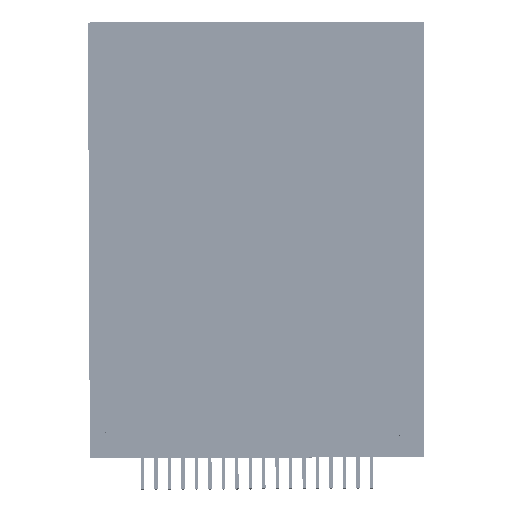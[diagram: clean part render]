
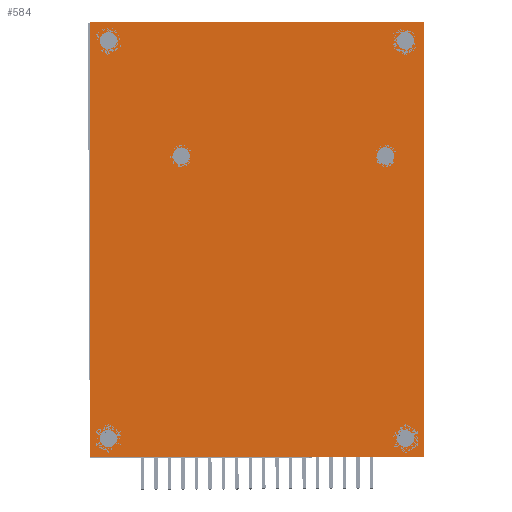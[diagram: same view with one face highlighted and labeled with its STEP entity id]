
A CAD part, top view. The second image highlights one B-rep face of the part: STEP entity #584.
In plain terms, the highlighted planar face has unit normal (0, 0, 1) as drawn and (0, 0, -1) by its records, which use the part's own axes.
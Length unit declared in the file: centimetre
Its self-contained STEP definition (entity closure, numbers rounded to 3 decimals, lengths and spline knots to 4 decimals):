
#98=CARTESIAN_POINT('',(6.3,8.2,0.));
#99=VERTEX_POINT('',#98);
#106=CARTESIAN_POINT('',(-0.,8.2,0.));
#107=VERTEX_POINT('',#106);
#108=CARTESIAN_POINT('',(-12345.,8.2,0.));
#109=DIRECTION('',(1.,0.,-0.));
#110=VECTOR('',#109,24690.);
#111=LINE('',#108,#110);
#112=EDGE_CURVE('',#107,#99,#111,.T.);
#136=CARTESIAN_POINT('',(6.3,0.,0.));
#137=VERTEX_POINT('',#136);
#144=CARTESIAN_POINT('',(6.3,12353.2,0.));
#145=DIRECTION('',(0.,-1.,0.));
#146=VECTOR('',#145,24690.);
#147=LINE('',#144,#146);
#148=EDGE_CURVE('',#99,#137,#147,.T.);
#167=CARTESIAN_POINT('',(0.,0.,0.));
#168=VERTEX_POINT('',#167);
#175=CARTESIAN_POINT('',(12351.3,0.,0.));
#176=DIRECTION('',(-1.,0.,0.));
#177=VECTOR('',#176,24690.);
#178=LINE('',#175,#177);
#179=EDGE_CURVE('',#137,#168,#178,.T.);
#197=CARTESIAN_POINT('',(0.,-12345.,0.));
#198=DIRECTION('',(-0.,1.,0.));
#199=VECTOR('',#198,24690.);
#200=LINE('',#197,#199);
#201=EDGE_CURVE('',#168,#107,#200,.T.);
#214=CARTESIAN_POINT('',(0.565,5.675,0.));
#215=VERTEX_POINT('',#214);
#239=CARTESIAN_POINT('',(0.885,5.675,0.));
#240=VERTEX_POINT('',#239);
#241=CARTESIAN_POINT('',(0.725,5.675,0.));
#242=DIRECTION('',(0.,0.,1.));
#243=DIRECTION('',(1.,0.,-0.));
#244=AXIS2_PLACEMENT_3D('',#241,#242,#243);
#245=CIRCLE('',#244,0.16);
#246=EDGE_CURVE('',#240,#215,#245,.T.);
#248=CARTESIAN_POINT('',(0.725,5.675,0.));
#249=DIRECTION('',(0.,0.,1.));
#250=DIRECTION('',(1.,0.,-0.));
#251=AXIS2_PLACEMENT_3D('',#248,#249,#250);
#252=CIRCLE('',#251,0.16);
#253=EDGE_CURVE('',#215,#240,#252,.T.);
#265=CARTESIAN_POINT('',(0.19,0.35,0.));
#266=VERTEX_POINT('',#265);
#290=CARTESIAN_POINT('',(0.51,0.35,0.));
#291=VERTEX_POINT('',#290);
#292=CARTESIAN_POINT('',(0.35,0.35,0.));
#293=DIRECTION('',(0.,0.,1.));
#294=DIRECTION('',(1.,0.,-0.));
#295=AXIS2_PLACEMENT_3D('',#292,#293,#294);
#296=CIRCLE('',#295,0.16);
#297=EDGE_CURVE('',#291,#266,#296,.T.);
#299=CARTESIAN_POINT('',(0.35,0.35,0.));
#300=DIRECTION('',(0.,0.,1.));
#301=DIRECTION('',(1.,0.,-0.));
#302=AXIS2_PLACEMENT_3D('',#299,#300,#301);
#303=CIRCLE('',#302,0.16);
#304=EDGE_CURVE('',#266,#291,#303,.T.);
#316=CARTESIAN_POINT('',(5.79,0.35,0.));
#317=VERTEX_POINT('',#316);
#341=CARTESIAN_POINT('',(6.11,0.35,0.));
#342=VERTEX_POINT('',#341);
#343=CARTESIAN_POINT('',(5.95,0.35,0.));
#344=DIRECTION('',(0.,0.,1.));
#345=DIRECTION('',(1.,0.,-0.));
#346=AXIS2_PLACEMENT_3D('',#343,#344,#345);
#347=CIRCLE('',#346,0.16);
#348=EDGE_CURVE('',#342,#317,#347,.T.);
#350=CARTESIAN_POINT('',(5.95,0.35,0.));
#351=DIRECTION('',(0.,0.,1.));
#352=DIRECTION('',(1.,0.,-0.));
#353=AXIS2_PLACEMENT_3D('',#350,#351,#352);
#354=CIRCLE('',#353,0.16);
#355=EDGE_CURVE('',#317,#342,#354,.T.);
#367=CARTESIAN_POINT('',(5.79,7.85,0.));
#368=VERTEX_POINT('',#367);
#392=CARTESIAN_POINT('',(6.11,7.85,0.));
#393=VERTEX_POINT('',#392);
#394=CARTESIAN_POINT('',(5.95,7.85,0.));
#395=DIRECTION('',(0.,0.,1.));
#396=DIRECTION('',(1.,0.,-0.));
#397=AXIS2_PLACEMENT_3D('',#394,#395,#396);
#398=CIRCLE('',#397,0.16);
#399=EDGE_CURVE('',#393,#368,#398,.T.);
#401=CARTESIAN_POINT('',(5.95,7.85,0.));
#402=DIRECTION('',(0.,0.,1.));
#403=DIRECTION('',(1.,0.,-0.));
#404=AXIS2_PLACEMENT_3D('',#401,#402,#403);
#405=CIRCLE('',#404,0.16);
#406=EDGE_CURVE('',#368,#393,#405,.T.);
#418=CARTESIAN_POINT('',(0.19,7.85,0.));
#419=VERTEX_POINT('',#418);
#443=CARTESIAN_POINT('',(0.51,7.85,0.));
#444=VERTEX_POINT('',#443);
#445=CARTESIAN_POINT('',(0.35,7.85,0.));
#446=DIRECTION('',(0.,0.,1.));
#447=DIRECTION('',(1.,0.,-0.));
#448=AXIS2_PLACEMENT_3D('',#445,#446,#447);
#449=CIRCLE('',#448,0.16);
#450=EDGE_CURVE('',#444,#419,#449,.T.);
#452=CARTESIAN_POINT('',(0.35,7.85,0.));
#453=DIRECTION('',(0.,0.,1.));
#454=DIRECTION('',(1.,0.,-0.));
#455=AXIS2_PLACEMENT_3D('',#452,#453,#454);
#456=CIRCLE('',#455,0.16);
#457=EDGE_CURVE('',#419,#444,#456,.T.);
#469=CARTESIAN_POINT('',(4.415,5.675,0.));
#470=VERTEX_POINT('',#469);
#494=CARTESIAN_POINT('',(4.735,5.675,0.));
#495=VERTEX_POINT('',#494);
#496=CARTESIAN_POINT('',(4.575,5.675,0.));
#497=DIRECTION('',(0.,0.,1.));
#498=DIRECTION('',(1.,0.,-0.));
#499=AXIS2_PLACEMENT_3D('',#496,#497,#498);
#500=CIRCLE('',#499,0.16);
#501=EDGE_CURVE('',#495,#470,#500,.T.);
#503=CARTESIAN_POINT('',(4.575,5.675,0.));
#504=DIRECTION('',(0.,0.,1.));
#505=DIRECTION('',(1.,0.,-0.));
#506=AXIS2_PLACEMENT_3D('',#503,#504,#505);
#507=CIRCLE('',#506,0.16);
#508=EDGE_CURVE('',#470,#495,#507,.T.);
#549=CARTESIAN_POINT('',(3.15,4.1,0.));
#550=DIRECTION('',(0.,0.,1.));
#551=DIRECTION('',(1.,0.,0.));
#552=AXIS2_PLACEMENT_3D('',#549,#550,#551);
#553=PLANE('',#552);
#554=ORIENTED_EDGE('',*,*,#501,.T.);
#555=ORIENTED_EDGE('',*,*,#508,.T.);
#556=EDGE_LOOP('',(#554,#555));
#557=FACE_BOUND('',#556,.T.);
#558=ORIENTED_EDGE('',*,*,#450,.T.);
#559=ORIENTED_EDGE('',*,*,#457,.T.);
#560=EDGE_LOOP('',(#558,#559));
#561=FACE_BOUND('',#560,.T.);
#562=ORIENTED_EDGE('',*,*,#399,.T.);
#563=ORIENTED_EDGE('',*,*,#406,.T.);
#564=EDGE_LOOP('',(#562,#563));
#565=FACE_BOUND('',#564,.T.);
#566=ORIENTED_EDGE('',*,*,#348,.T.);
#567=ORIENTED_EDGE('',*,*,#355,.T.);
#568=EDGE_LOOP('',(#566,#567));
#569=FACE_BOUND('',#568,.T.);
#570=ORIENTED_EDGE('',*,*,#297,.T.);
#571=ORIENTED_EDGE('',*,*,#304,.T.);
#572=EDGE_LOOP('',(#570,#571));
#573=FACE_BOUND('',#572,.T.);
#574=ORIENTED_EDGE('',*,*,#246,.T.);
#575=ORIENTED_EDGE('',*,*,#253,.T.);
#576=EDGE_LOOP('',(#574,#575));
#577=FACE_BOUND('',#576,.T.);
#578=ORIENTED_EDGE('',*,*,#201,.T.);
#579=ORIENTED_EDGE('',*,*,#112,.T.);
#580=ORIENTED_EDGE('',*,*,#148,.T.);
#581=ORIENTED_EDGE('',*,*,#179,.T.);
#582=EDGE_LOOP('',(#578,#579,#580,#581));
#583=FACE_BOUND('',#582,.T.);
#584=ADVANCED_FACE('',(#557,#561,#565,#569,#573,#577,#583),#553,.F.);
